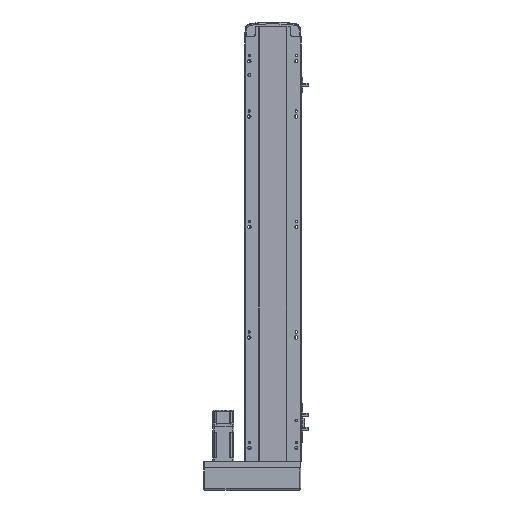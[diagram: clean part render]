
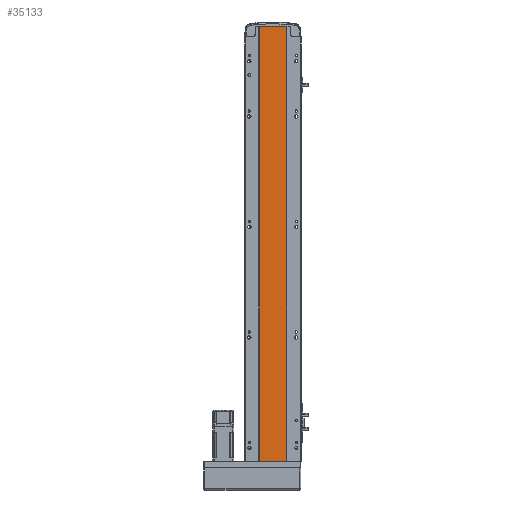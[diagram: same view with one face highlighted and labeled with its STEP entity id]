
A CAD part, front view. The second image highlights one B-rep face of the part: STEP entity #35133.
In plain terms, the highlighted planar face has unit normal (0, -1, 0).
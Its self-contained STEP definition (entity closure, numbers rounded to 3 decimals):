
#1136 = DIRECTION ( 'NONE',  ( 0., 0., -1. ) ) ;
#1630 = PLANE ( 'NONE',  #42656 ) ;
#2644 = VECTOR ( 'NONE', #13558, 1000. ) ;
#3590 = FACE_OUTER_BOUND ( 'NONE', #50649, .T. ) ;
#4462 = LINE ( 'NONE', #19213, #8670 ) ;
#7895 = CARTESIAN_POINT ( 'NONE',  ( 0., 2., 0. ) ) ;
#8670 = VECTOR ( 'NONE', #1136, 1000. ) ;
#10134 = DIRECTION ( 'NONE',  ( 0., 1., 0. ) ) ;
#10155 = EDGE_CURVE ( 'NONE', #17858, #41924, #29315, .T. ) ;
#11862 = VECTOR ( 'NONE', #19986, 1000. ) ;
#13558 = DIRECTION ( 'NONE',  ( 1., 0., 0. ) ) ;
#14462 = CARTESIAN_POINT ( 'NONE',  ( -24.5, 2., 0. ) ) ;
#14641 = DIRECTION ( 'NONE',  ( 0., 0., 1. ) ) ;
#16624 = EDGE_CURVE ( 'NONE', #39583, #27957, #21713, .T. ) ;
#17858 = VERTEX_POINT ( 'NONE', #14462 ) ;
#19213 = CARTESIAN_POINT ( 'NONE',  ( -24.5, 2., 787. ) ) ;
#19314 = DIRECTION ( 'NONE',  ( 0., 0., -1. ) ) ;
#19986 = DIRECTION ( 'NONE',  ( 1., 0., 0. ) ) ;
#20303 = ORIENTED_EDGE ( 'NONE', *, *, #25449, .T. ) ;
#20764 = ORIENTED_EDGE ( 'NONE', *, *, #10155, .T. ) ;
#21713 = LINE ( 'NONE', #55876, #11862 ) ;
#22482 = ORIENTED_EDGE ( 'NONE', *, *, #16624, .F. ) ;
#25449 = EDGE_CURVE ( 'NONE', #39583, #17858, #4462, .T. ) ;
#27957 = VERTEX_POINT ( 'NONE', #48757 ) ;
#28290 = CARTESIAN_POINT ( 'NONE',  ( 24.5, 2., 787. ) ) ;
#29315 = LINE ( 'NONE', #7895, #2644 ) ;
#35133 = ADVANCED_FACE ( 'NONE', ( #3590 ), #1630, .F. ) ;
#36295 = LINE ( 'NONE', #28290, #46090 ) ;
#37699 = CARTESIAN_POINT ( 'NONE',  ( -24.5, 2., 787. ) ) ;
#39583 = VERTEX_POINT ( 'NONE', #37699 ) ;
#41924 = VERTEX_POINT ( 'NONE', #50600 ) ;
#42656 = AXIS2_PLACEMENT_3D ( 'NONE', #46362, #10134, #14641 ) ;
#46090 = VECTOR ( 'NONE', #19314, 1000. ) ;
#46362 = CARTESIAN_POINT ( 'NONE',  ( 0., 2., 787. ) ) ;
#47288 = ORIENTED_EDGE ( 'NONE', *, *, #54087, .F. ) ;
#48757 = CARTESIAN_POINT ( 'NONE',  ( 24.5, 2., 787. ) ) ;
#50600 = CARTESIAN_POINT ( 'NONE',  ( 24.5, 2., 0. ) ) ;
#50649 = EDGE_LOOP ( 'NONE', ( #20764, #47288, #22482, #20303 ) ) ;
#54087 = EDGE_CURVE ( 'NONE', #27957, #41924, #36295, .T. ) ;
#55876 = CARTESIAN_POINT ( 'NONE',  ( -24.5, 2., 787. ) ) ;
